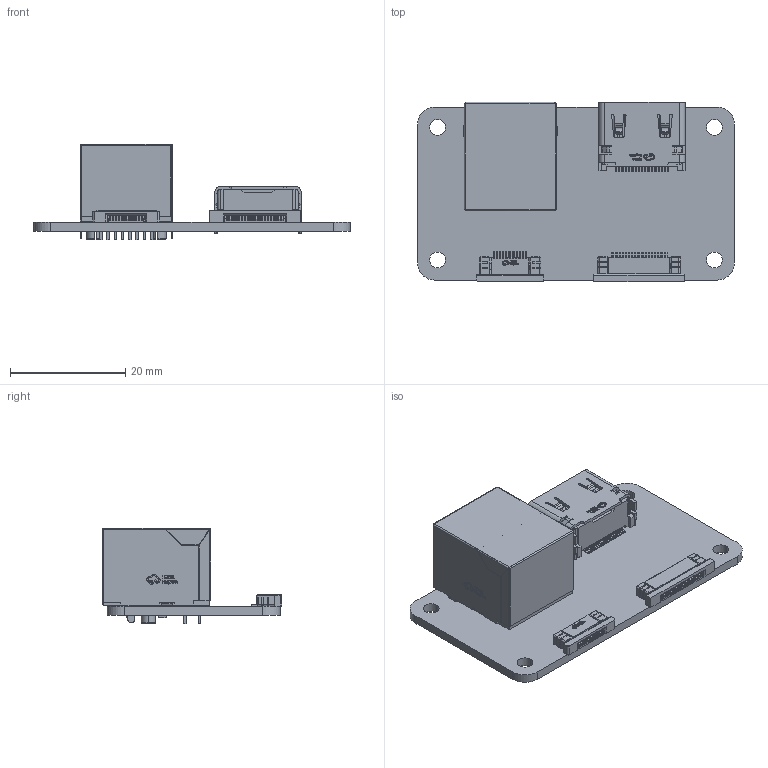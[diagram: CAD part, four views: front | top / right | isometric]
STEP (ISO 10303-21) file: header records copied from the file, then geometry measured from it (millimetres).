
FILE_DESCRIPTION(('Designed by EasyEDA Pro'),'2;1');
FILE_NAME('Open CASCADE Shape Model','2026-02-27T12:44:53',('Author'),( 'Open CASCADE'),'Open CASCADE STEP processor 7.8','Open CASCADE 7.8' ,'Unknown');
FILE_SCHEMA(('AUTOMOTIVE_DESIGN { 1 0 10303 214 1 1 1 1 }'));
Length unit declared in the file: millimetre
Products named in the file (14): EasyEDA PCB Model~HLmn; Board~HLmn; TopCopper~HLmn; BottomCopper~HLmn; TopFpcStiffener~HLmn; BottomFpcStiffener~HLmn; RJ2~RJ45-TH_KH-RJ45-58-8P8C~RJ45-TH_KH-RJ45-58-8P8C~HLmn; RJ45-TH_KH-RJ45-58-8P8C~RJ45-TH_KH-RJ45-58-8P8C~HLmn; HDMI2~HDMI-SMD_HDMI-19PIN-043~HDMI-SMD_HDMI-9PIN-043~HLmn; HDMI-SMD_HDMI-19PIN-043~HDMI-SMD_HDMI-9PIN-043~HLmn; FPC1~FPC-SMD_20P-P0.50_0.5K-AX-20PWB~FPC-SMD_20P-P0.50_
0.5K-AX-20PWB~HLmn; FPC-SMD_20P-P0.50_0.5K-AX-20PWB~FPC-SMD_20P-P0.50_0.5K-AX-20PWB~HLmn; FPC2~FPC-SMD_12P-P0.50_05B20L12P~FPC-SMD_12P-P0.50_05B20L12P~HLmn; FPC-SMD_12P-P0.50_05B20L12P~FPC-SMD_12P-P0.50_05B20L12P~HLmn
Assembly tree (13 placements, depth 3):
  EasyEDA PCB Model~HLmn
    Board~HLmn
    TopCopper~HLmn
    BottomCopper~HLmn
    TopFpcStiffener~HLmn
    BottomFpcStiffener~HLmn
    RJ2~RJ45-TH_KH-RJ45-58-8P8C~RJ45-TH_KH-RJ45-58-8P8C~HLmn
      RJ45-TH_KH-RJ45-58-8P8C~RJ45-TH_KH-RJ45-58-8P8C~HLmn
    HDMI2~HDMI-SMD_HDMI-19PIN-043~HDMI-SMD_HDMI-9PIN-043~HLmn
      HDMI-SMD_HDMI-19PIN-043~HDMI-SMD_HDMI-9PIN-043~HLmn
    FPC1~FPC-SMD_20P-P0.50_0.5K-AX-20PWB~FPC-SMD_20P-P0.50_
0.5K-AX-20PWB~HLmn
      FPC-SMD_20P-P0.50_0.5K-AX-20PWB~FPC-SMD_20P-P0.50_0.5K-AX-20PWB~HLmn
    FPC2~FPC-SMD_12P-P0.50_05B20L12P~FPC-SMD_12P-P0.50_05B20L12P~HLmn
      FPC-SMD_12P-P0.50_05B20L12P~FPC-SMD_12P-P0.50_05B20L12P~HLmn
Bounding box: 54.97 x 31.15 x 16.5 mm (x, y, z)
Volume: 6281.9 mm3; surface area: 10545.2 mm2
Topology: 47 solids, 47 shells, 3676 faces, 10251 edges, 6703 vertices
Faces by surface type: plane 2602, cylinder 718, bspline 344, torus 6, sphere 6
Entity records: 154066 total; most frequent: CARTESIAN_POINT 27342, ORIENTED_EDGE 20494, DIRECTION 17592, EDGE_CURVE 10247, LINE 8078, VECTOR 8078, VERTEX_POINT 6703, AXIS2_PLACEMENT_3D 4757
